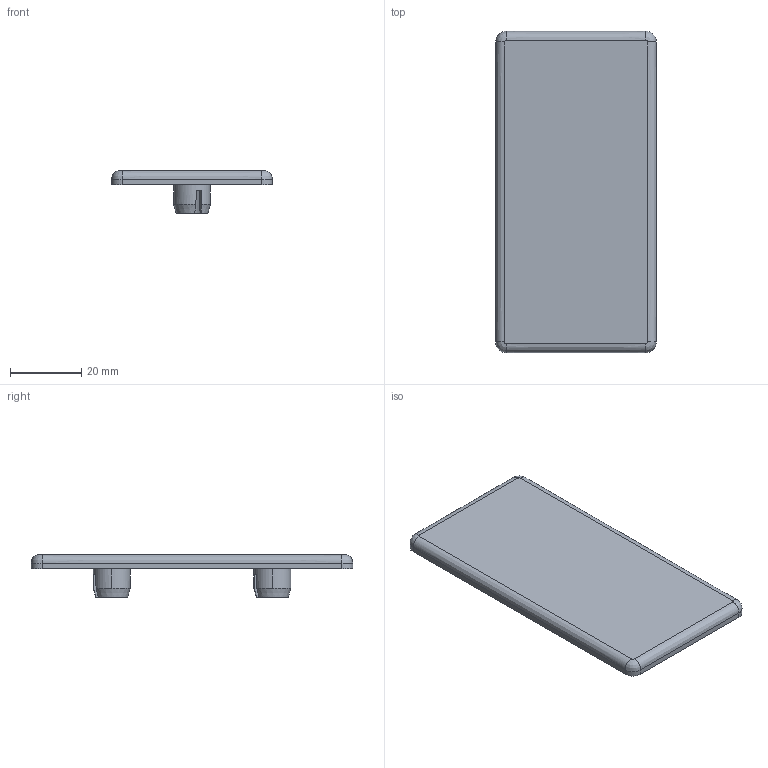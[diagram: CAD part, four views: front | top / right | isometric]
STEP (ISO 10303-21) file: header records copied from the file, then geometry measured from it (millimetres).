
FILE_DESCRIPTION (( 'STEP AP203' ), '1' );
FILE_NAME ('084.201.039.STEP', '2021-04-01T14:00:01', ( '' ), ( '' ), 'SwSTEP 2.0', 'SolidWorks 2018', '' );
FILE_SCHEMA (( 'CONFIG_CONTROL_DESIGN' ));
Length unit declared in the file: millimetre
Products named in the file (1): 084.201.039
Bounding box: 45 x 90 x 12 mm (x, y, z)
Volume: 11426.3 mm3; surface area: 10205.9 mm2
Topology: 1 solids, 1 shells, 280 faces, 753 edges, 492 vertices
Faces by surface type: plane 209, cylinder 24, cone 23, bspline 20, torus 4
Entity records: 9458 total; most frequent: CARTESIAN_POINT 2530, ORIENTED_EDGE 1506, DIRECTION 1303, EDGE_CURVE 753, VECTOR 581, LINE 581, VERTEX_POINT 492, AXIS2_PLACEMENT_3D 361
